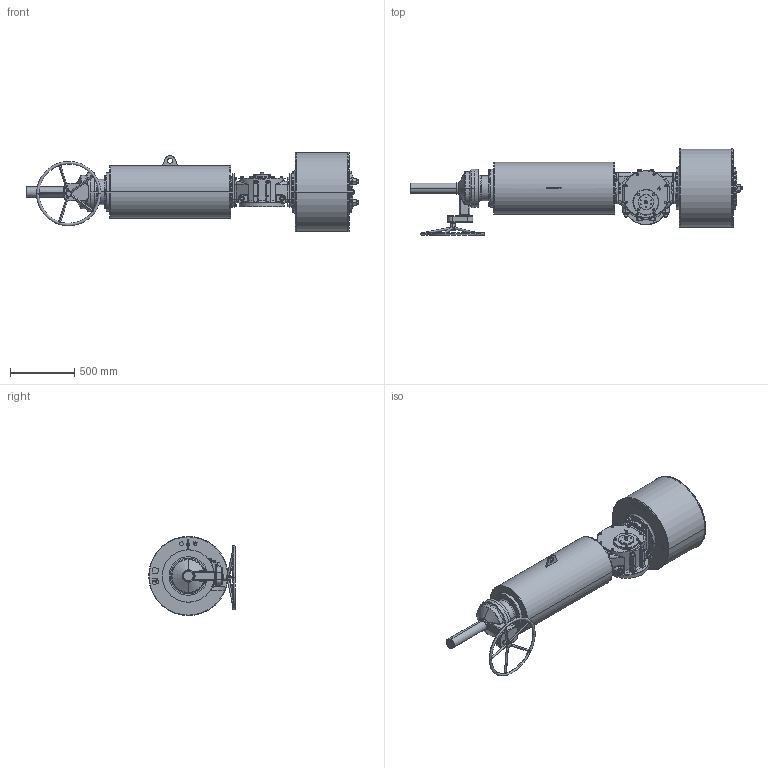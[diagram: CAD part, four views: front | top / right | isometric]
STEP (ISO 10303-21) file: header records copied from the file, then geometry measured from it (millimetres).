
FILE_DESCRIPTION (( 'STEP AP203' ), '1' );
FILE_NAME ('VTS4-600-SR-MG-FO.STEP', '2023-01-01T09:29:27', ( '' ), ( '' ), 'SwSTEP 2.0', 'SolidWorks 2020', '' );
FILE_SCHEMA (( 'CONFIG_CONTROL_DESIGN' ));
Length unit declared in the file: millimetre
Products named in the file (1): VTS4-600-SR-MG-FO
Bounding box: 2582.5 x 673 x 616 mm (x, y, z)
Volume: 291162356.4 mm3; surface area: 5184575.3 mm2
Topology: 18 solids, 21 shells, 2348 faces, 5938 edges, 3726 vertices
Faces by surface type: plane 880, cylinder 761, cone 480, bspline 160, torus 67
Entity records: 91260 total; most frequent: CARTESIAN_POINT 35864, ORIENTED_EDGE 11704, DIRECTION 11529, EDGE_CURVE 5852, AXIS2_PLACEMENT_3D 4602, VERTEX_POINT 3726, EDGE_LOOP 2634, CIRCLE 2413
